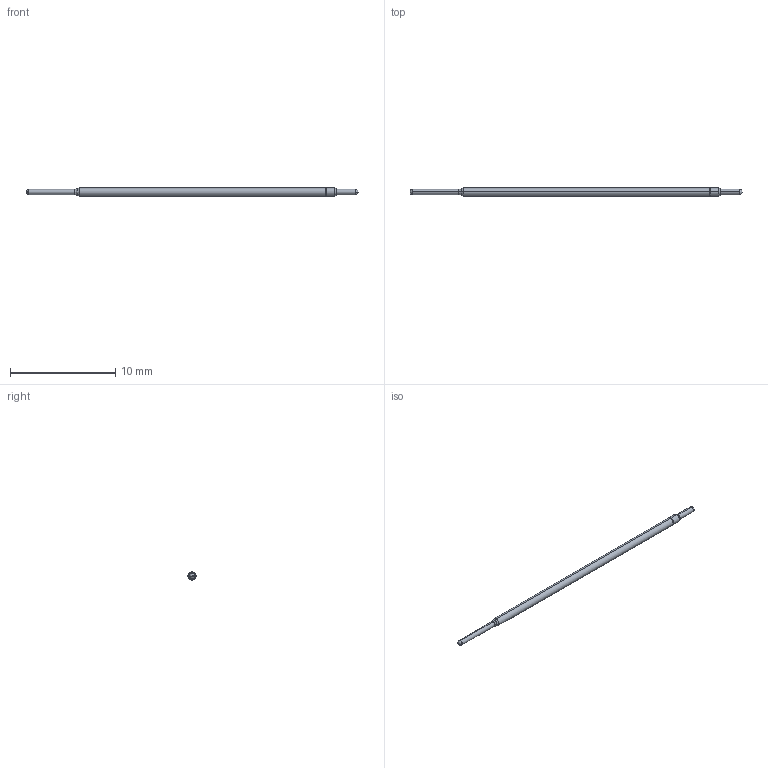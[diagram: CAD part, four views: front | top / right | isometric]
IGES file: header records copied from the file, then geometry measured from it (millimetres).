
Start section: SolidWorks IGES file using analytic representation for surfaces
Global section: file name: C:\Documents and Settings\mrumschlag\Desktop\changes\new\test\J FULL.IGS; native system: SolidWorks 2011; preprocessor: SolidWorks 2011; author: mrumschlag; date: 110630.142726; units: inch
Bounding box: 31.58 x 0.76 x 0.76 mm (x, y, z)
Surface area: 70.4 mm2 (no closed solid volume)
Topology: 0 solids, 0 shells, 25 faces, 136 edges, 132 vertices
Faces by surface type: revolution 16, bspline 9
